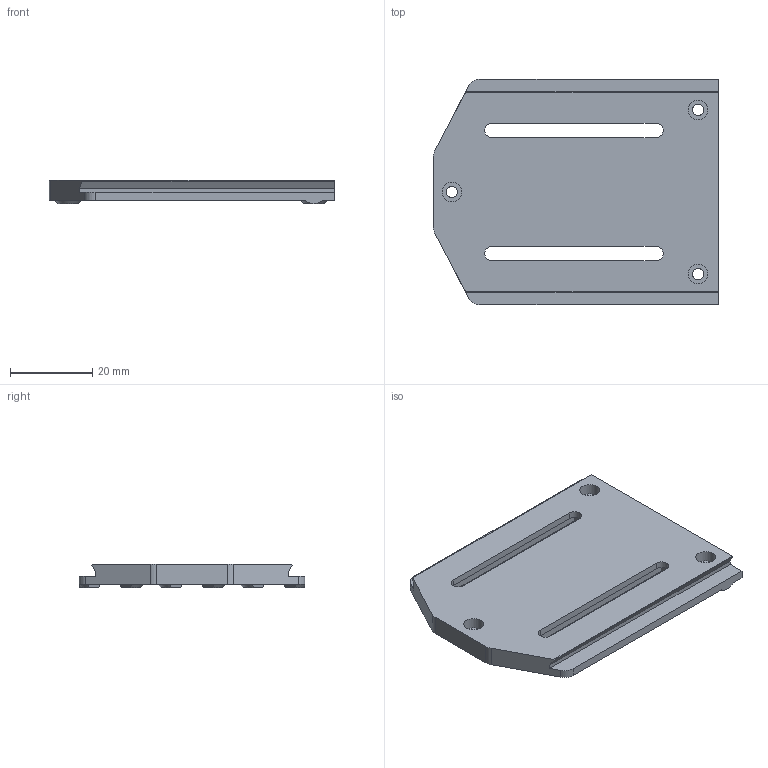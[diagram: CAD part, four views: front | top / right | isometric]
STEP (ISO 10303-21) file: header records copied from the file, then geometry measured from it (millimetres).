
FILE_DESCRIPTION(/* description */ ('STEP AP242','CAx-IF Rec.Pracs.---Representation and Presentation of Product Manufacturing Information (PMI)---4.0---2014-10-13','CAx-IF Rec.Pracs.---3D Tessellated Geometry---0.4---2014-09-14','2;1'),/* implementation_level */ '2;1');
FILE_NAME(/* name */ '62b7534e1a41712550c66298',/* time_stamp */ '2022-06-25T18:26:23+00:00',/* author */ (''),/* organization */ (''),/* preprocessor_version */ 'ST-DEVELOPER v18.102',/* originating_system */ ' ',/* authorisation */ ' ');
FILE_SCHEMA (('AP242_MANAGED_MODEL_BASED_3D_ENGINEERING_MIM_LF { 1 0 10303 442 1 1 4 }'));
Length unit declared in the file: metre
Products named in the file (1): Mounting Plate Sliding Left
Bounding box: 69.5 x 55 x 5.7 mm (x, y, z)
Volume: 14115.1 mm3; surface area: 9092.8 mm2
Topology: 1 solids, 1 shells, 79 faces, 201 edges, 133 vertices
Faces by surface type: plane 57, cylinder 14, cone 8
Full cylindrical faces by diameter (mm): 2.8 x3, 4.8 x3
Entity records: 2370 total; most frequent: CARTESIAN_POINT 432, DIRECTION 386, ORIENTED_EDGE 384, EDGE_CURVE 192, LINE 138, VECTOR 138, VERTEX_POINT 130, AXIS2_PLACEMENT_3D 124
